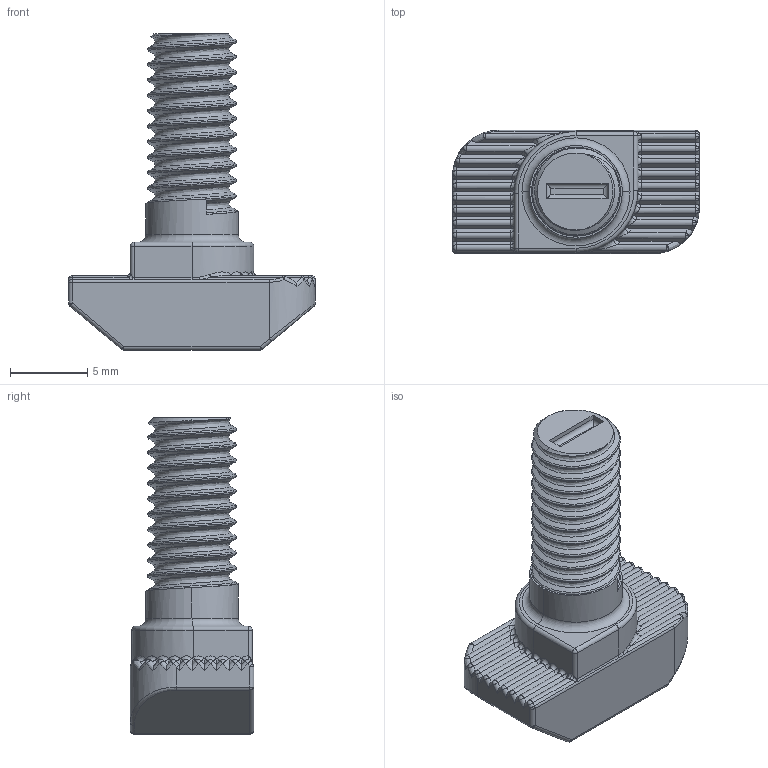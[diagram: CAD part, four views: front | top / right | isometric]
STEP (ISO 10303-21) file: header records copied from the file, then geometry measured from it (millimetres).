
FILE_DESCRIPTION (( 'STEP AP203' ), '1' );
FILE_NAME ('5022.STEP', '2016-01-21T09:58:23', ( '' ), ( '' ), 'SwSTEP 2.0', 'SolidWorks 2014', '' );
FILE_SCHEMA (( 'CONFIG_CONTROL_DESIGN' ));
Length unit declared in the file: millimetre
Products named in the file (1): 5022
Bounding box: 16 x 8 x 20.5 mm (x, y, z)
Volume: 939.7 mm3; surface area: 798.1 mm2
Topology: 1 solids, 1 shells, 275 faces, 638 edges, 357 vertices
Faces by surface type: cylinder 94, bspline 66, plane 59, sphere 40, torus 14, cone 2
Entity records: 12450 total; most frequent: CARTESIAN_POINT 6869, ORIENTED_EDGE 1256, DIRECTION 1067, EDGE_CURVE 628, AXIS2_PLACEMENT_3D 423, VERTEX_POINT 357, EDGE_LOOP 277, FACE_OUTER_BOUND 275
